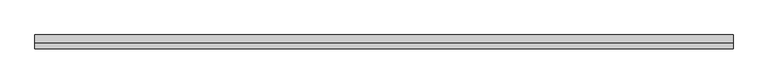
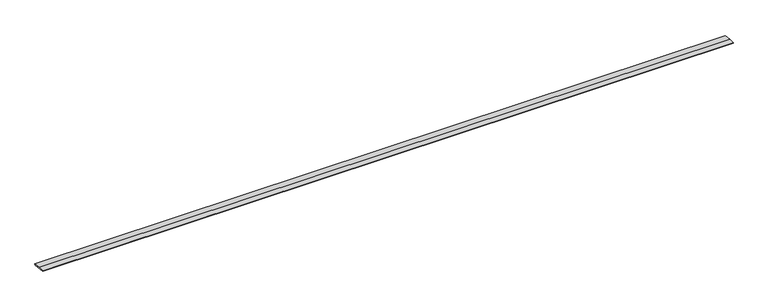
"""IFC4 building model written with IfcOpenShell, lengths in millimetres: beam geometry, weatherboad : weatherboad."""

from ifc_helpers import new_model, si_unit, frame, origin, place, context, project, spatial, polyline, outline, extrude, source, transform, mapped, element, save


def beam_17126593(model_context):
    return source(origin(), model_context, "Body", "SweptSolid", [
        extrude(outline(polyline([(0.0, -9.143159), (1.1226388, 0.0), (79.0749747, 0.0), (180.9387048, -12.5072934), (178.6231873, -31.3656703), (0.0, -9.143159)])), frame((-4595.0, 0.0, 0.0), z_axis=(1.0, 0.0, 0.0), x_axis=(0.0, 1.0, 0.0)), (0.0, 0.0, 1.0), 9190.0),
    ])


if __name__ == "__main__":
    model = new_model("IFC4")
    model_context = context("Model", 3, world=origin())
    ifc_project = project(units=[si_unit("LENGTHUNIT", "METRE", prefix="MILLI")], contexts=[model_context])
    site = spatial("IfcSite", under=ifc_project)
    building = spatial("IfcBuilding", under=site)
    placement = place(None, origin())
    beam_shape = beam_17126593(model_context)
    element("IfcBeam", 1, ObjectType="weatherboad : weatherboad", at=placement, inside=building, context=model_context, shape_type="MappedRepresentation", body=[
        mapped(beam_shape, transform((0.0, 0.0, 0.0), x_axis=(1.0, 0.0, 0.0), y_axis=(0.0, 1.0, 0.0), z_axis=(0.0, 0.0, 1.0))),
    ])
    save(model, "model.ifc")
